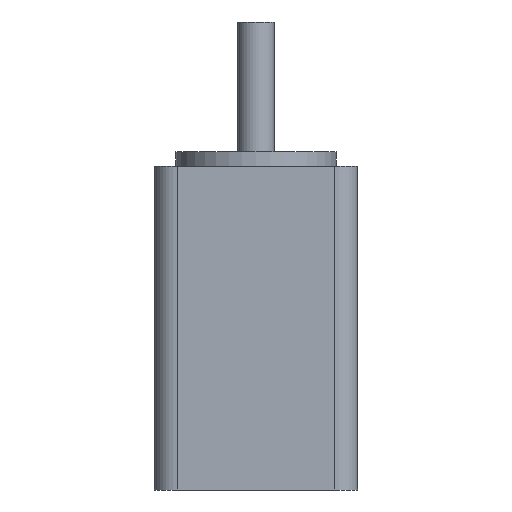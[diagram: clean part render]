
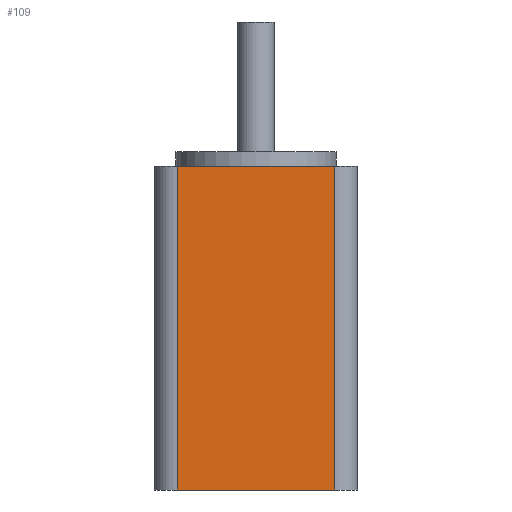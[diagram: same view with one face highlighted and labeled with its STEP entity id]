
A CAD part, front view. The second image highlights one B-rep face of the part: STEP entity #109.
In plain terms, the highlighted planar face has unit normal (0, -1, 0).
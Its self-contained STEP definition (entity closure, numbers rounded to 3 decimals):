
#109=ADVANCED_FACE('',(#189),#190,.T.);
#189=FACE_OUTER_BOUND('',#279,.T.);
#190=PLANE('',#280);
#279=EDGE_LOOP('',(#530,#531,#532,#533));
#280=AXIS2_PLACEMENT_3D('',#534,#535,#536);
#530=ORIENTED_EDGE('',*,*,#668,.T.);
#531=ORIENTED_EDGE('',*,*,#669,.F.);
#532=ORIENTED_EDGE('',*,*,#670,.F.);
#533=ORIENTED_EDGE('',*,*,#666,.T.);
#534=CARTESIAN_POINT('',(-10.795,-13.97,44.45));
#535=DIRECTION('',(0.0,-1.0,0.0));
#536=DIRECTION('',(0.0,0.0,-1.0));
#666=EDGE_CURVE('',#807,#805,#808,.T.);
#668=EDGE_CURVE('',#805,#810,#811,.T.);
#669=EDGE_CURVE('',#812,#810,#813,.T.);
#670=EDGE_CURVE('',#807,#812,#814,.T.);
#805=VERTEX_POINT('',#981);
#807=VERTEX_POINT('',#983);
#808=LINE('',#984,#985);
#810=VERTEX_POINT('',#987);
#811=LINE('',#988,#989);
#812=VERTEX_POINT('',#990);
#813=LINE('',#991,#992);
#814=LINE('',#993,#994);
#981=CARTESIAN_POINT('',(-10.795,-13.97,0.0));
#983=CARTESIAN_POINT('',(-10.795,-13.97,44.45));
#984=CARTESIAN_POINT('',(-10.795,-13.97,44.45));
#985=VECTOR('',#1168,44.45);
#987=CARTESIAN_POINT('',(10.795,-13.97,0.0));
#988=CARTESIAN_POINT('',(-10.795,-13.97,0.0));
#989=VECTOR('',#1172,21.59);
#990=CARTESIAN_POINT('',(10.795,-13.97,44.45));
#991=CARTESIAN_POINT('',(10.795,-13.97,44.45));
#992=VECTOR('',#1173,44.45);
#993=CARTESIAN_POINT('',(-10.795,-13.97,44.45));
#994=VECTOR('',#1174,21.59);
#1168=DIRECTION('',(0.0,0.0,-1.0));
#1172=DIRECTION('',(1.0,0.0,0.0));
#1173=DIRECTION('',(0.0,0.0,-1.0));
#1174=DIRECTION('',(1.0,0.0,0.0));
